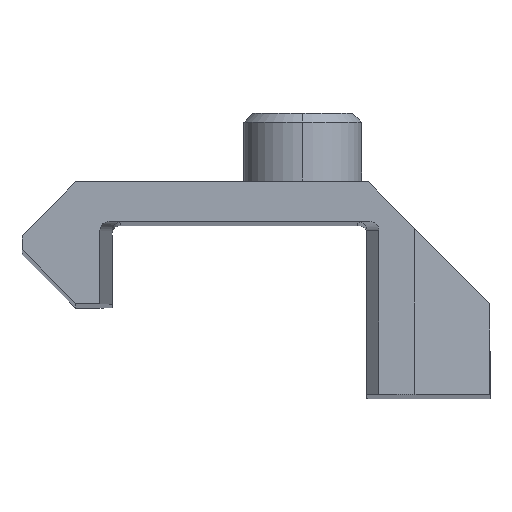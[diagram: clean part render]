
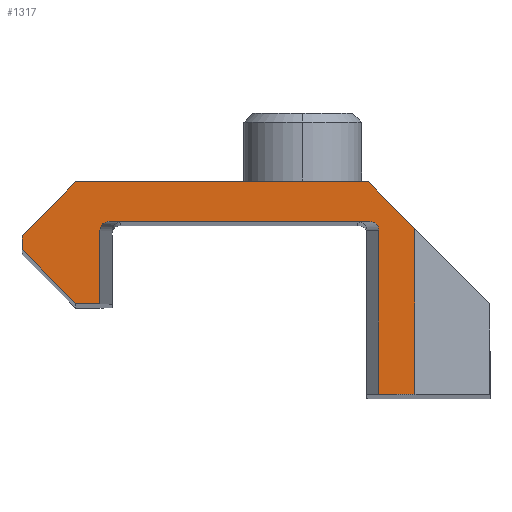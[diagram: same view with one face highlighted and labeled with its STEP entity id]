
A CAD part, top view. The second image highlights one B-rep face of the part: STEP entity #1317.
In plain terms, the highlighted planar face has unit normal (0, 0, 1).
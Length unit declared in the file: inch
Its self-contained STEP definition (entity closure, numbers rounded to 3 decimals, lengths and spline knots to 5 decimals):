
#73 = DIRECTION ( 'NONE',  ( 1., 0., 0. ) ) ;
#81 = CARTESIAN_POINT ( 'NONE',  ( 0.19878, 0.11117, 4.273 ) ) ;
#83 = CARTESIAN_POINT ( 'NONE',  ( 0.205, 0.09617, 4.273 ) ) ;
#89 = CARTESIAN_POINT ( 'NONE',  ( 0.18998, 0.11117, 4.273 ) ) ;
#90 = CARTESIAN_POINT ( 'NONE',  ( 0.205, 0.10495, 4.273 ) ) ;
#97 = LINE ( 'NONE', #98, #1136 ) ;
#98 = CARTESIAN_POINT ( 'NONE',  ( 0.39, -0.17717, 4.273 ) ) ;
#104 = LINE ( 'NONE', #145, #1163 ) ;
#118 = CARTESIAN_POINT ( 'NONE',  ( -0.39, 0.06417, 4.273 ) ) ;
#122 = LINE ( 'NONE', #118, #1145 ) ;
#125 = LINE ( 'NONE', #132, #1153 ) ;
#132 = CARTESIAN_POINT ( 'NONE',  ( 0.205, -0.17717, 4.273 ) ) ;
#137 = DIRECTION ( 'NONE',  ( 0., -1., 0. ) ) ;
#145 = CARTESIAN_POINT ( 'NONE',  ( -0.3, -0.02583, 4.273 ) ) ;
#148 = DIRECTION ( 'NONE',  ( 0.707, -0.707, 0. ) ) ;
#153 = DIRECTION ( 'NONE',  ( 0., -1., 0. ) ) ;
#167 = LINE ( 'NONE', #200, #1147 ) ;
#168 = DIRECTION ( 'NONE',  ( -0.707, 0.707, 0. ) ) ;
#194 = LINE ( 'NONE', #197, #1141 ) ;
#197 = CARTESIAN_POINT ( 'NONE',  ( -0.26, 0.11117, 4.273 ) ) ;
#199 = DIRECTION ( 'NONE',  ( 0., 1., 0. ) ) ;
#200 = CARTESIAN_POINT ( 'NONE',  ( 0.187, 0.17717, 4.273 ) ) ;
#205 = CARTESIAN_POINT ( 'NONE',  ( -0.39, 0.08717, 4.273 ) ) ;
#206 = DIRECTION ( 'NONE',  ( -0.707, -0.707, 0. ) ) ;
#212 = LINE ( 'NONE', #205, #1017 ) ;
#232 = DIRECTION ( 'NONE',  ( 1., 0., 0. ) ) ;
#240 = LINE ( 'NONE', #241, #1043 ) ;
#241 = CARTESIAN_POINT ( 'NONE',  ( 0.185, 0.11117, 4.273 ) ) ;
#364 = LINE ( 'NONE', #375, #1123 ) ;
#366 = LINE ( 'NONE', #370, #1127 ) ;
#370 = CARTESIAN_POINT ( 'NONE',  ( -0.3, 0.17717, 4.273 ) ) ;
#375 = CARTESIAN_POINT ( 'NONE',  ( -0.24, -0.02583, 4.273 ) ) ;
#376 = DIRECTION ( 'NONE',  ( -1., 0., 0. ) ) ;
#377 = DIRECTION ( 'NONE',  ( 1., 0., 0. ) ) ;
#378 = LINE ( 'NONE', #391, #1099 ) ;
#391 = CARTESIAN_POINT ( 'NONE',  ( 0.265, -0.02583, 4.273 ) ) ;
#394 = DIRECTION ( 'NONE',  ( 0., 1., 0. ) ) ;
#399 = VERTEX_POINT ( 'NONE', #720 ) ;
#412 = VERTEX_POINT ( 'NONE', #703 ) ;
#414 = VERTEX_POINT ( 'NONE', #744 ) ;
#417 = VERTEX_POINT ( 'NONE', #749 ) ;
#444 = VERTEX_POINT ( 'NONE', #799 ) ;
#446 = VERTEX_POINT ( 'NONE', #767 ) ;
#454 = VERTEX_POINT ( 'NONE', #785 ) ;
#458 = VERTEX_POINT ( 'NONE', #768 ) ;
#475 = VERTEX_POINT ( 'NONE', #786 ) ;
#476 = VERTEX_POINT ( 'NONE', #781 ) ;
#479 = VERTEX_POINT ( 'NONE', #774 ) ;
#480 = VERTEX_POINT ( 'NONE', #766 ) ;
#482 = VERTEX_POINT ( 'NONE', #788 ) ;
#548 = EDGE_LOOP ( 'NONE', ( #687, #634, #640, #694, #696, #684, #697, #658, #690, #693, #679, #637, #639 ) ) ;
#634 = ORIENTED_EDGE ( 'NONE', *, *, #1201, .T. ) ;
#637 = ORIENTED_EDGE ( 'NONE', *, *, #1230, .T. ) ;
#639 = ORIENTED_EDGE ( 'NONE', *, *, #1254, .T. ) ;
#640 = ORIENTED_EDGE ( 'NONE', *, *, #1265, .T. ) ;
#658 = ORIENTED_EDGE ( 'NONE', *, *, #1199, .T. ) ;
#679 = ORIENTED_EDGE ( 'NONE', *, *, #1274, .T. ) ;
#684 = ORIENTED_EDGE ( 'NONE', *, *, #1250, .T. ) ;
#687 = ORIENTED_EDGE ( 'NONE', *, *, #1225, .T. ) ;
#690 = ORIENTED_EDGE ( 'NONE', *, *, #1264, .T. ) ;
#693 = ORIENTED_EDGE ( 'NONE', *, *, #1181, .T. ) ;
#694 = ORIENTED_EDGE ( 'NONE', *, *, #1198, .T. ) ;
#696 = ORIENTED_EDGE ( 'NONE', *, *, #1278, .T. ) ;
#697 = ORIENTED_EDGE ( 'NONE', *, *, #1243, .T. ) ;
#703 = CARTESIAN_POINT ( 'NONE',  ( -0.39, 0.08717, 4.273 ) ) ;
#720 = CARTESIAN_POINT ( 'NONE',  ( -0.3, 0.17717, 4.273 ) ) ;
#744 = CARTESIAN_POINT ( 'NONE',  ( -0.39, 0.06417, 4.273 ) ) ;
#749 = CARTESIAN_POINT ( 'NONE',  ( -0.24498, 0.11117, 4.273 ) ) ;
#766 = CARTESIAN_POINT ( 'NONE',  ( 0.187, 0.17717, 4.273 ) ) ;
#767 = CARTESIAN_POINT ( 'NONE',  ( -0.26, 0.09617, 4.273 ) ) ;
#768 = CARTESIAN_POINT ( 'NONE',  ( 0.265, -0.17717, 4.273 ) ) ;
#774 = CARTESIAN_POINT ( 'NONE',  ( -0.26, -0.02583, 4.273 ) ) ;
#781 = CARTESIAN_POINT ( 'NONE',  ( -0.3, -0.02583, 4.273 ) ) ;
#785 = CARTESIAN_POINT ( 'NONE',  ( 0.205, -0.17717, 4.273 ) ) ;
#786 = CARTESIAN_POINT ( 'NONE',  ( 0.18998, 0.11117, 4.273 ) ) ;
#788 = CARTESIAN_POINT ( 'NONE',  ( 0.205, 0.09617, 4.273 ) ) ;
#799 = CARTESIAN_POINT ( 'NONE',  ( 0.265, 0.09917, 4.273 ) ) ;
#809 = CARTESIAN_POINT ( 'NONE',  ( -0.25378, 0.11117, 4.273 ) ) ;
#816 = CARTESIAN_POINT ( 'NONE',  ( -0.24498, 0.11117, 4.273 ) ) ;
#825 = CARTESIAN_POINT ( 'NONE',  ( -0.26, 0.10495, 4.273 ) ) ;
#830 = CARTESIAN_POINT ( 'NONE',  ( -0.26, 0.09617, 4.273 ) ) ;
#868 = FACE_OUTER_BOUND ( 'NONE', #548, .T. ) ;
#869 = PLANE ( 'NONE',  #998 ) ;
#870 = CARTESIAN_POINT ( 'NONE',  ( -0.0565, 0.42067, 4.273 ) ) ;
#890 = DIRECTION ( 'NONE',  ( 1., 0., 0. ) ) ;
#895 = DIRECTION ( 'NONE',  ( 0., 0., 1. ) ) ;
#984 =( BOUNDED_CURVE ( )  B_SPLINE_CURVE ( 3, ( #89, #81, #90, #83 ),
 .UNSPECIFIED., .F., .T. ) 
 B_SPLINE_CURVE_WITH_KNOTS ( ( 4, 4 ),
 ( 4.71239, 6.28319 ),
 .UNSPECIFIED. ) 
 CURVE ( )  GEOMETRIC_REPRESENTATION_ITEM ( )  RATIONAL_B_SPLINE_CURVE ( ( 1., 0.805, 0.805, 1. ) ) 
 REPRESENTATION_ITEM ( '' )  );
#990 =( BOUNDED_CURVE ( )  B_SPLINE_CURVE ( 3, ( #830, #825, #809, #816 ),
 .UNSPECIFIED., .F., .F. ) 
 B_SPLINE_CURVE_WITH_KNOTS ( ( 4, 4 ),
 ( 3.14159, 4.71239 ),
 .UNSPECIFIED. ) 
 CURVE ( )  GEOMETRIC_REPRESENTATION_ITEM ( )  RATIONAL_B_SPLINE_CURVE ( ( 1., 0.805, 0.805, 1. ) ) 
 REPRESENTATION_ITEM ( '' )  );
#998 = AXIS2_PLACEMENT_3D ( 'NONE', #870, #895, #890 ) ;
#1017 = VECTOR ( 'NONE', #206, 39.37008 ) ;
#1043 = VECTOR ( 'NONE', #232, 39.37008 ) ;
#1099 = VECTOR ( 'NONE', #394, 39.37008 ) ;
#1123 = VECTOR ( 'NONE', #377, 39.37008 ) ;
#1127 = VECTOR ( 'NONE', #376, 39.37008 ) ;
#1136 = VECTOR ( 'NONE', #73, 39.37008 ) ;
#1141 = VECTOR ( 'NONE', #199, 39.37008 ) ;
#1145 = VECTOR ( 'NONE', #153, 39.37008 ) ;
#1147 = VECTOR ( 'NONE', #168, 39.37008 ) ;
#1153 = VECTOR ( 'NONE', #137, 39.37008 ) ;
#1163 = VECTOR ( 'NONE', #148, 39.37008 ) ;
#1181 = EDGE_CURVE ( 'NONE', #446, #417, #990, .T. ) ;
#1198 = EDGE_CURVE ( 'NONE', #480, #399, #366, .T. ) ;
#1199 = EDGE_CURVE ( 'NONE', #476, #479, #364, .T. ) ;
#1201 = EDGE_CURVE ( 'NONE', #458, #444, #378, .T. ) ;
#1225 = EDGE_CURVE ( 'NONE', #454, #458, #97, .T. ) ;
#1230 = EDGE_CURVE ( 'NONE', #475, #482, #984, .T. ) ;
#1243 = EDGE_CURVE ( 'NONE', #414, #476, #104, .T. ) ;
#1250 = EDGE_CURVE ( 'NONE', #412, #414, #122, .T. ) ;
#1254 = EDGE_CURVE ( 'NONE', #482, #454, #125, .T. ) ;
#1264 = EDGE_CURVE ( 'NONE', #479, #446, #194, .T. ) ;
#1265 = EDGE_CURVE ( 'NONE', #444, #480, #167, .T. ) ;
#1274 = EDGE_CURVE ( 'NONE', #417, #475, #240, .T. ) ;
#1278 = EDGE_CURVE ( 'NONE', #399, #412, #212, .T. ) ;
#1317 = ADVANCED_FACE ( 'NONE', ( #868 ), #869, .T. ) ;
